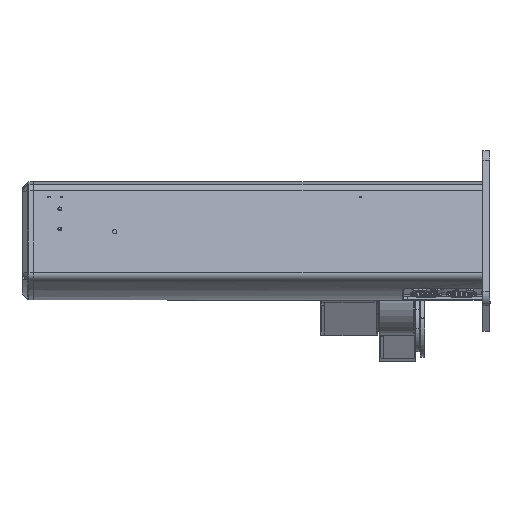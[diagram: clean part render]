
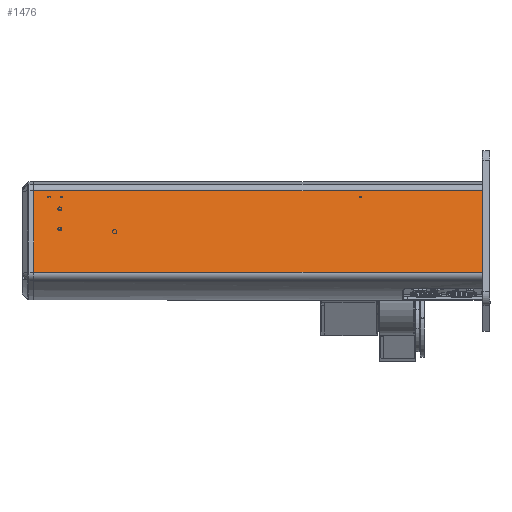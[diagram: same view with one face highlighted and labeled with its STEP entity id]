
A CAD part, top view. The second image highlights one B-rep face of the part: STEP entity #1476.
In plain terms, the highlighted planar face has unit normal (0, 0.188, 0.982).
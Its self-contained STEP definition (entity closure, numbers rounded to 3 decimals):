
#520=CARTESIAN_POINT('Vertex',(548.252,42.645,70.189)) ;
#523=CARTESIAN_POINT('Line Origine',(548.252,-9.118,80.112)) ;
#527=CARTESIAN_POINT('Vertex',(548.252,-60.88,90.036)) ;
#1376=CARTESIAN_POINT('Axis2P3D Location',(-19.748,52.756,68.25)) ;
#1381=CARTESIAN_POINT('Line Origine',(-19.748,-9.118,80.112)) ;
#1385=CARTESIAN_POINT('Vertex',(-19.748,-60.88,90.036)) ;
#1387=CARTESIAN_POINT('Vertex',(-19.748,42.645,70.189)) ;
#1390=CARTESIAN_POINT('Line Origine',(264.252,-60.88,90.036)) ;
#1395=CARTESIAN_POINT('Line Origine',(264.252,42.645,70.189)) ;
#1406=CARTESIAN_POINT('Line Origine',(15.252,34.511,71.748)) ;
#1410=CARTESIAN_POINT('Vertex',(17.102,34.511,71.748)) ;
#1412=CARTESIAN_POINT('Vertex',(13.403,34.511,71.748)) ;
#1415=CARTESIAN_POINT('Axis2P3D Location',(15.252,33.604,71.922)) ;
#1419=CARTESIAN_POINT('Vertex',(17.066,34.578,71.735)) ;
#1422=CARTESIAN_POINT('Axis2P3D Location',(15.252,33.604,71.922)) ;
#1432=CARTESIAN_POINT('Axis2P3D Location',(393.752,33.604,71.922)) ;
#1436=CARTESIAN_POINT('Vertex',(395.085,34.511,71.748)) ;
#1438=CARTESIAN_POINT('Vertex',(392.42,34.511,71.748)) ;
#1441=CARTESIAN_POINT('Line Origine',(393.752,34.511,71.748)) ;
#1450=CARTESIAN_POINT('Axis2P3D Location',(-0.748,33.604,71.922)) ;
#1454=CARTESIAN_POINT('Vertex',(1.102,34.511,71.748)) ;
#1456=CARTESIAN_POINT('Vertex',(1.066,34.578,71.735)) ;
#1459=CARTESIAN_POINT('Line Origine',(-0.748,34.511,71.748)) ;
#1463=CARTESIAN_POINT('Vertex',(-2.597,34.511,71.748)) ;
#1466=CARTESIAN_POINT('Axis2P3D Location',(-0.748,33.604,71.922)) ;
#524=DIRECTION('Vector Direction',(0.,-0.982,0.188)) ;
#1377=DIRECTION('Axis2P3D Direction',(0.,0.188,0.982)) ;
#1378=DIRECTION('Axis2P3D XDirection',(0.,-0.982,0.188)) ;
#1382=DIRECTION('Vector Direction',(0.,-0.982,0.188)) ;
#1391=DIRECTION('Vector Direction',(-1.,0.,0.)) ;
#1396=DIRECTION('Vector Direction',(-1.,0.,0.)) ;
#1407=DIRECTION('Vector Direction',(1.,0.,0.)) ;
#1416=DIRECTION('Axis2P3D Direction',(0.,0.188,0.982)) ;
#1423=DIRECTION('Axis2P3D Direction',(0.,0.188,0.982)) ;
#1433=DIRECTION('Axis2P3D Direction',(0.,0.188,0.982)) ;
#1442=DIRECTION('Vector Direction',(1.,0.,0.)) ;
#1451=DIRECTION('Axis2P3D Direction',(0.,0.188,0.982)) ;
#1460=DIRECTION('Vector Direction',(1.,0.,0.)) ;
#1467=DIRECTION('Axis2P3D Direction',(0.,0.188,0.982)) ;
#1379=AXIS2_PLACEMENT_3D('Plane Axis2P3D',#1376,#1377,#1378) ;
#1417=AXIS2_PLACEMENT_3D('Circle Axis2P3D',#1415,#1416,$) ;
#1424=AXIS2_PLACEMENT_3D('Circle Axis2P3D',#1422,#1423,$) ;
#1434=AXIS2_PLACEMENT_3D('Circle Axis2P3D',#1432,#1433,$) ;
#1452=AXIS2_PLACEMENT_3D('Circle Axis2P3D',#1450,#1451,$) ;
#1468=AXIS2_PLACEMENT_3D('Circle Axis2P3D',#1466,#1467,$) ;
#1401=ORIENTED_EDGE('',*,*,#1389,.F.) ;
#1402=ORIENTED_EDGE('',*,*,#1394,.T.) ;
#1403=ORIENTED_EDGE('',*,*,#529,.F.) ;
#1404=ORIENTED_EDGE('',*,*,#1399,.F.) ;
#1428=ORIENTED_EDGE('',*,*,#1414,.T.) ;
#1429=ORIENTED_EDGE('',*,*,#1421,.F.) ;
#1430=ORIENTED_EDGE('',*,*,#1426,.F.) ;
#1447=ORIENTED_EDGE('',*,*,#1440,.F.) ;
#1448=ORIENTED_EDGE('',*,*,#1445,.T.) ;
#1472=ORIENTED_EDGE('',*,*,#1458,.F.) ;
#1473=ORIENTED_EDGE('',*,*,#1465,.T.) ;
#1474=ORIENTED_EDGE('',*,*,#1470,.F.) ;
#1431=FACE_BOUND('',#1427,.T.) ;
#1449=FACE_BOUND('',#1446,.T.) ;
#1475=FACE_BOUND('',#1471,.T.) ;
#525=VECTOR('Line Direction',#524,1.) ;
#1383=VECTOR('Line Direction',#1382,1.) ;
#1392=VECTOR('Line Direction',#1391,1.) ;
#1397=VECTOR('Line Direction',#1396,1.) ;
#1408=VECTOR('Line Direction',#1407,1.) ;
#1443=VECTOR('Line Direction',#1442,1.) ;
#1461=VECTOR('Line Direction',#1460,1.) ;
#1476=ADVANCED_FACE('\X2\4FDD62A4591658F3\X0\\\\X2\96F64EF651E04F554F53\X0\',(#1405,#1431,#1449,#1475),#1380,.T.) ;
#1418=CIRCLE('generated circle',#1417,2.067) ;
#1425=CIRCLE('generated circle',#1424,2.067) ;
#1435=CIRCLE('generated circle',#1434,1.621) ;
#1453=CIRCLE('generated circle',#1452,2.067) ;
#1469=CIRCLE('generated circle',#1468,2.067) ;
#529=EDGE_CURVE('',#521,#528,#526,.T.) ;
#1389=EDGE_CURVE('',#1386,#1388,#1384,.F.) ;
#1394=EDGE_CURVE('',#1386,#528,#1393,.F.) ;
#1399=EDGE_CURVE('',#1388,#521,#1398,.F.) ;
#1414=EDGE_CURVE('',#1411,#1413,#1409,.F.) ;
#1421=EDGE_CURVE('',#1420,#1413,#1418,.T.) ;
#1426=EDGE_CURVE('',#1411,#1420,#1425,.T.) ;
#1440=EDGE_CURVE('',#1437,#1439,#1435,.T.) ;
#1445=EDGE_CURVE('',#1437,#1439,#1444,.F.) ;
#1458=EDGE_CURVE('',#1455,#1457,#1453,.T.) ;
#1465=EDGE_CURVE('',#1455,#1464,#1462,.F.) ;
#1470=EDGE_CURVE('',#1457,#1464,#1469,.T.) ;
#1400=EDGE_LOOP('',(#1401,#1402,#1403,#1404)) ;
#1427=EDGE_LOOP('',(#1428,#1429,#1430)) ;
#1446=EDGE_LOOP('',(#1447,#1448)) ;
#1471=EDGE_LOOP('',(#1472,#1473,#1474)) ;
#1405=FACE_OUTER_BOUND('',#1400,.T.) ;
#526=LINE('Line',#523,#525) ;
#1384=LINE('Line',#1381,#1383) ;
#1393=LINE('Line',#1390,#1392) ;
#1398=LINE('Line',#1395,#1397) ;
#1409=LINE('Line',#1406,#1408) ;
#1444=LINE('Line',#1441,#1443) ;
#1462=LINE('Line',#1459,#1461) ;
#1380=PLANE('Plane',#1379) ;
#521=VERTEX_POINT('',#520) ;
#528=VERTEX_POINT('',#527) ;
#1386=VERTEX_POINT('',#1385) ;
#1388=VERTEX_POINT('',#1387) ;
#1411=VERTEX_POINT('',#1410) ;
#1413=VERTEX_POINT('',#1412) ;
#1420=VERTEX_POINT('',#1419) ;
#1437=VERTEX_POINT('',#1436) ;
#1439=VERTEX_POINT('',#1438) ;
#1455=VERTEX_POINT('',#1454) ;
#1457=VERTEX_POINT('',#1456) ;
#1464=VERTEX_POINT('',#1463) ;
